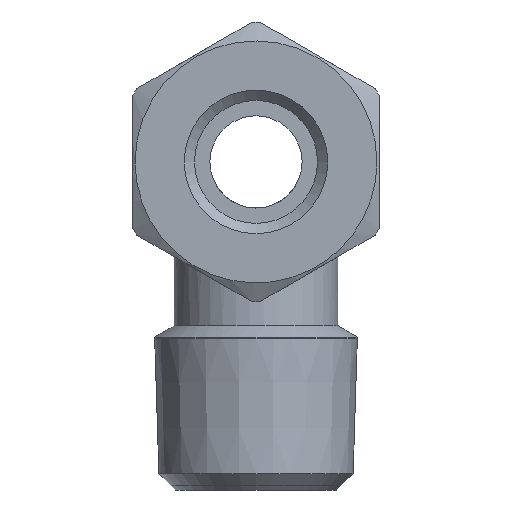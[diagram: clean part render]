
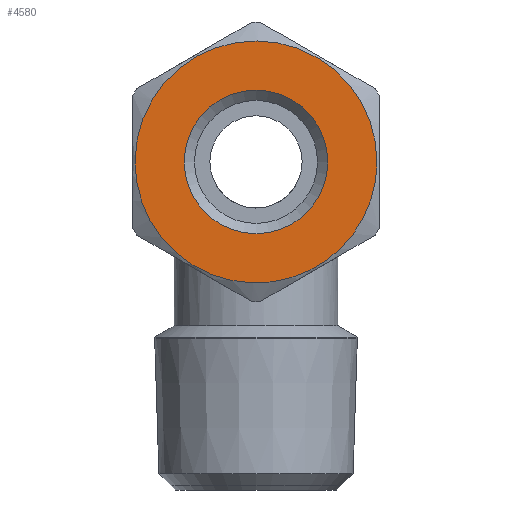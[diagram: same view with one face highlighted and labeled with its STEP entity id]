
A CAD part, left-side view. The second image highlights one B-rep face of the part: STEP entity #4580.
In plain terms, the highlighted planar face has unit normal (-1, 0, 0).
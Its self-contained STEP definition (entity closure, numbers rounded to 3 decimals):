
#4580=ADVANCED_FACE('', (#4590,#4600), #4610, .T.);
#14400=AXIS2_PLACEMENT_3D('Ax2Pl3d', #14410, #14420, #14430);
#15080=AXIS2_PLACEMENT_3D('Ax2Pl3d', #15090, #15100, #15110);
#15120=AXIS2_PLACEMENT_3D('Ax2Pl3d', #15130, #15140, #15150);
#14410=CARTESIAN_POINT('HicPkt', (5.036,11.922,26.983));
#47780=CARTESIAN_POINT('', (5.036,6.022,26.983));
#15090=CARTESIAN_POINT('HicPkt', (5.036,11.922,32.883));
#15130=CARTESIAN_POINT('HicPkt', (5.036,11.922,26.983));
#47960=CARTESIAN_POINT('', (5.036,15.422,26.983));
#49060=CIRCLE('Circle', #14400, 5.9);
#49120=CIRCLE('Circle', #15120, 3.5);
#14420=DIRECTION('Axis', (1.,0.,0.));
#14430=DIRECTION('RefDirection', (0.,-0.,-1.));
#15100=DIRECTION('Axis', (-1.,0.,0.)
);
#15110=DIRECTION('RefDirection', (0.,
0.,-1.));
#15140=DIRECTION('Axis', (1.,0.,0.));
#15150=DIRECTION('RefDirection', (0.,-0.,-1.));
#62150=EDGE_CURVE('', #62160, #62160, #49060, .T.);
#62520=EDGE_CURVE('', #62530, #62530, #49120, .T.);
#69240=EDGE_LOOP('Edge_loop', (#69250));
#69260=EDGE_LOOP('Edge_loop', (#69270));
#4600=FACE_BOUND('', #69260, .T.);
#4590=FACE_OUTER_BOUND('Face_outer_bound', #69240, .T.);
#69250=ORIENTED_EDGE('', *, *, #62150, .F.);
#69270=ORIENTED_EDGE('', *, *, #62520, .T.);
#4610=PLANE('Plane', #15080);
#62160=VERTEX_POINT('', #47780);
#62530=VERTEX_POINT('', #47960);
